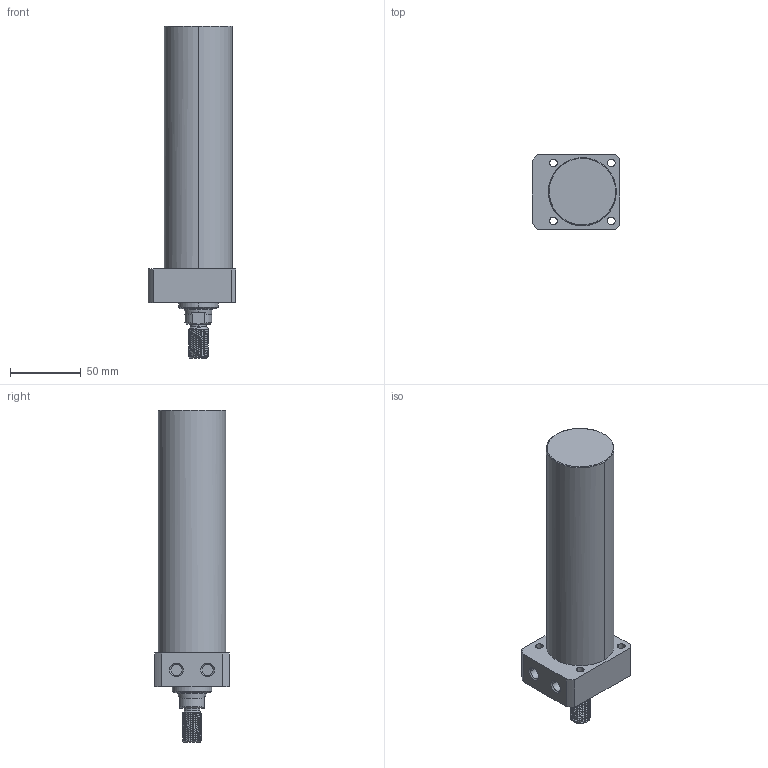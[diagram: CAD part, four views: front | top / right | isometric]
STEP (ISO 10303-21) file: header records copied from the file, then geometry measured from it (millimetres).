
FILE_DESCRIPTION((' '),'2;1');
FILE_NAME( 'TLLR-048CT-145.STEP.stp', '2025-10-24T16:34:38', (' '), ('--- Datakit www.datakit.com---'), ' Datakit CrossCadWare V2024.1 Dec 21 2023', 'Mastercam 2025', ' ');
FILE_SCHEMA(('AUTOMOTIVE_DESIGN { 1 0 10303 214 1 1 1 1 }'));
Length unit declared in the file: millimetre
Products named in the file (1): TLLR-048CT-145
Bounding box: 62 x 53 x 235 mm (x, y, z)
Volume: 394309.6 mm3; surface area: 42482.6 mm2
Topology: 1 solids, 1 shells, 96 faces, 329 edges, 243 vertices
Faces by surface type: cylinder 56, plane 20, cone 16, torus 2, bspline 2
Entity records: 9840 total; most frequent: CARTESIAN_POINT 6944, ORIENTED_EDGE 658, DIRECTION 499, EDGE_CURVE 329, VERTEX_POINT 243, AXIS2_PLACEMENT_3D 204, B_SPLINE_CURVE_WITH_KNOTS 129, EDGE_LOOP 112
